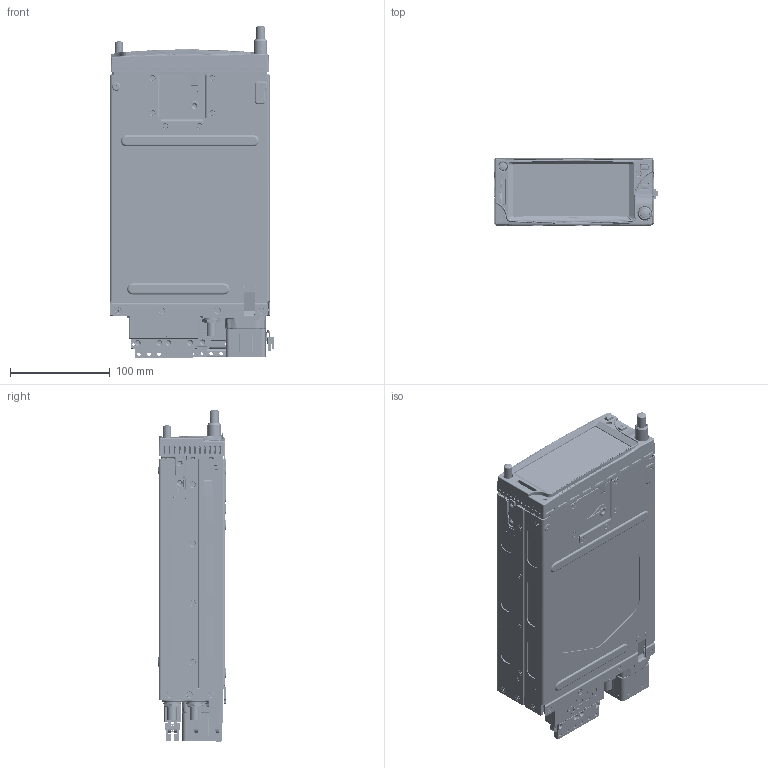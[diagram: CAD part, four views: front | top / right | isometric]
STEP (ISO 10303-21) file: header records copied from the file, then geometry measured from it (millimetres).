
FILE_DESCRIPTION (( 'STEP AP203' ), '1' );
FILE_NAME ('GTN6XX_rev1.STEP', '2011-06-07T22:14:37', ( '' ), ( '' ), 'SwSTEP 2.0', 'SolidWorks 2010', '' );
FILE_SCHEMA (( 'CONFIG_CONTROL_DESIGN' ));
Products named in the file (1): GTN6XX_rev1
Bounding box: 164.43 x 68.96 x 332.36 mm (x, y, z)
Volume: 2705188.2 mm3; surface area: 400994.7 mm2
Topology: 7 solids, 23 shells, 10728 faces, 27499 edges, 17452 vertices
Faces by surface type: plane 4334, bspline 2947, cylinder 2076, cone 641, torus 602, sphere 128
Entity records: 474225 total; most frequent: CARTESIAN_POINT 233739, ORIENTED_EDGE 54896, DIRECTION 42129, EDGE_CURVE 27448, VERTEX_POINT 17452, VECTOR 14153, LINE 14153, AXIS2_PLACEMENT_3D 13988
